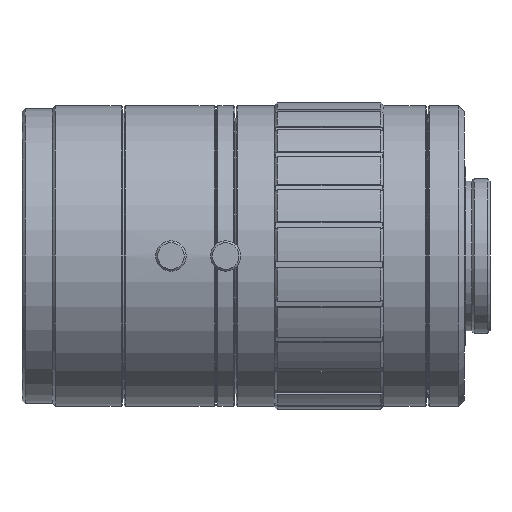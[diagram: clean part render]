
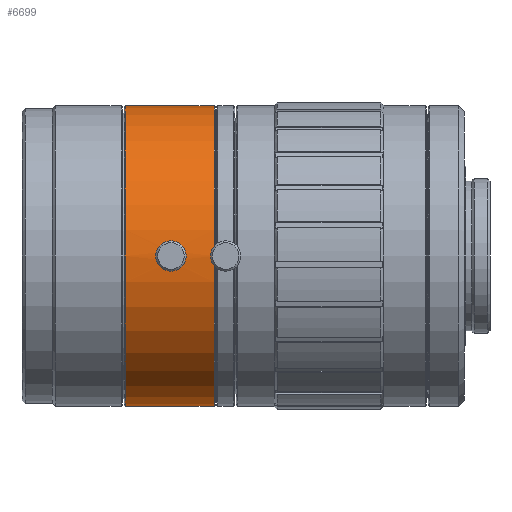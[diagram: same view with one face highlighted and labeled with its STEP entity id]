
A CAD part, front view. The second image highlights one B-rep face of the part: STEP entity #6699.
In plain terms, the highlighted cylindrical face has radius 24.75 mm (diameter 49.5 mm), a partial arc.
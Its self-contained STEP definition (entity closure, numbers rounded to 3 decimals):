
#210 = CARTESIAN_POINT ( 'NONE',  ( 0., 0., 24.75 ) ) ;
#555 = B_SPLINE_CURVE_WITH_KNOTS ( 'NONE', 3,
 ( #652, #5380, #2682, #1353, #6079, #2031, #6744, #2722, #7409, #3396, #8089, #4083, #8755, #4757, #686, #5436, #1380, #6110 ),
 .UNSPECIFIED., .F., .F.,
 ( 4, 2, 2, 2, 2, 2, 2, 2, 4 ),
 ( 0., 0., 0.001, 0.001, 0.002, 0.002, 0.002, 0.003, 0.003 ),
 .UNSPECIFIED. ) ;
#565 = CARTESIAN_POINT ( 'NONE',  ( 25.402, -24.737, 0.8 ) ) ;
#577 = EDGE_CURVE ( 'NONE', #1533, #4848, #7026, .T. ) ;
#615 = AXIS2_PLACEMENT_3D ( 'NONE', #3871, #8546, #4551 ) ;
#652 = CARTESIAN_POINT ( 'NONE',  ( 24.788, -24.73, -1. ) ) ;
#686 = CARTESIAN_POINT ( 'NONE',  ( 24.284, -24.735, 0.874 ) ) ;
#822 = CARTESIAN_POINT ( 'NONE',  ( 17.288, 0., 24.75 ) ) ;
#1096 = EDGE_LOOP ( 'NONE', ( #5153, #1815, #5229, #7605 ) ) ;
#1189 = LINE ( 'NONE', #6762, #1425 ) ;
#1258 = CARTESIAN_POINT ( 'NONE',  ( 25.661, -24.745, 0.504 ) ) ;
#1353 = CARTESIAN_POINT ( 'NONE',  ( 24.283, -24.735, -0.874 ) ) ;
#1380 = CARTESIAN_POINT ( 'NONE',  ( 24.657, -24.73, 1. ) ) ;
#1425 = VECTOR ( 'NONE', #2641, 1000. ) ;
#1487 = FACE_BOUND ( 'NONE', #8000, .T. ) ;
#1533 = VERTEX_POINT ( 'NONE', #4412 ) ;
#1668 = DIRECTION ( 'NONE',  ( -1., 0., 0. ) ) ;
#1704 = DIRECTION ( 'NONE',  ( -1., 0., 0. ) ) ;
#1718 = EDGE_CURVE ( 'NONE', #5575, #1905, #1189, .T. ) ;
#1806 = AXIS2_PLACEMENT_3D ( 'NONE', #3054, #1668, #7747 ) ;
#1815 = ORIENTED_EDGE ( 'NONE', *, *, #5131, .T. ) ;
#1905 = VERTEX_POINT ( 'NONE', #2796 ) ;
#1960 = CARTESIAN_POINT ( 'NONE',  ( 25.787, -24.75, 0.133 ) ) ;
#2031 = CARTESIAN_POINT ( 'NONE',  ( 23.988, -24.743, -0.615 ) ) ;
#2635 = CARTESIAN_POINT ( 'NONE',  ( 25.762, -24.749, -0.261 ) ) ;
#2641 = DIRECTION ( 'NONE',  ( -1., 0., 0. ) ) ;
#2682 = CARTESIAN_POINT ( 'NONE',  ( 24.526, -24.731, -0.974 ) ) ;
#2722 = CARTESIAN_POINT ( 'NONE',  ( 23.814, -24.749, -0.262 ) ) ;
#2796 = CARTESIAN_POINT ( 'NONE',  ( 17.288, 0., -24.75 ) ) ;
#2836 = VECTOR ( 'NONE', #4308, 1000. ) ;
#3054 = CARTESIAN_POINT ( 'NONE',  ( 0., 0., 0. ) ) ;
#3152 = CARTESIAN_POINT ( 'NONE',  ( 24.788, -24.73, 1. ) ) ;
#3279 = CARTESIAN_POINT ( 'NONE',  ( 24.918, -24.73, 1. ) ) ;
#3305 = CARTESIAN_POINT ( 'NONE',  ( 25.587, -24.743, -0.614 ) ) ;
#3367 = EDGE_CURVE ( 'NONE', #4513, #3687, #555, .T. ) ;
#3396 = CARTESIAN_POINT ( 'NONE',  ( 23.787, -24.75, 0.13 ) ) ;
#3687 = VERTEX_POINT ( 'NONE', #3152 ) ;
#3871 = CARTESIAN_POINT ( 'NONE',  ( 31.888, 0., 0. ) ) ;
#3996 = CARTESIAN_POINT ( 'NONE',  ( 25.052, -24.73, -1. ) ) ;
#4083 = CARTESIAN_POINT ( 'NONE',  ( 23.914, -24.745, 0.503 ) ) ;
#4308 = DIRECTION ( 'NONE',  ( -1., 0., 0. ) ) ;
#4392 = EDGE_CURVE ( 'NONE', #3687, #4513, #7915, .T. ) ;
#4412 = CARTESIAN_POINT ( 'NONE',  ( 31.888, 0., 24.75 ) ) ;
#4513 = VERTEX_POINT ( 'NONE', #5055 ) ;
#4551 = DIRECTION ( 'NONE',  ( 0., 0., 1. ) ) ;
#4645 = CARTESIAN_POINT ( 'NONE',  ( 25.29, -24.735, 0.874 ) ) ;
#4660 = CYLINDRICAL_SURFACE ( 'NONE', #1806, 24.75 ) ;
#4757 = CARTESIAN_POINT ( 'NONE',  ( 24.174, -24.737, 0.8 ) ) ;
#4848 = VERTEX_POINT ( 'NONE', #822 ) ;
#4888 = AXIS2_PLACEMENT_3D ( 'NONE', #5758, #1704, #6429 ) ;
#5051 = EDGE_CURVE ( 'NONE', #1905, #4848, #5312, .T. ) ;
#5055 = CARTESIAN_POINT ( 'NONE',  ( 24.788, -24.73, -1. ) ) ;
#5065 = CARTESIAN_POINT ( 'NONE',  ( 31.888, 0., -24.75 ) ) ;
#5076 = FACE_OUTER_BOUND ( 'NONE', #1096, .T. ) ;
#5131 = EDGE_CURVE ( 'NONE', #5575, #1533, #6466, .T. ) ;
#5153 = ORIENTED_EDGE ( 'NONE', *, *, #1718, .F. ) ;
#5229 = ORIENTED_EDGE ( 'NONE', *, *, #577, .T. ) ;
#5312 = CIRCLE ( 'NONE', #4888, 24.75 ) ;
#5318 = CARTESIAN_POINT ( 'NONE',  ( 25.586, -24.743, 0.615 ) ) ;
#5380 = CARTESIAN_POINT ( 'NONE',  ( 24.655, -24.73, -1. ) ) ;
#5384 = ORIENTED_EDGE ( 'NONE', *, *, #4392, .T. ) ;
#5436 = CARTESIAN_POINT ( 'NONE',  ( 24.526, -24.731, 0.974 ) ) ;
#5575 = VERTEX_POINT ( 'NONE', #5065 ) ;
#5758 = CARTESIAN_POINT ( 'NONE',  ( 17.288, 0., 0. ) ) ;
#6001 = CARTESIAN_POINT ( 'NONE',  ( 25.761, -24.749, 0.263 ) ) ;
#6079 = CARTESIAN_POINT ( 'NONE',  ( 24.173, -24.737, -0.799 ) ) ;
#6110 = CARTESIAN_POINT ( 'NONE',  ( 24.788, -24.73, 1. ) ) ;
#6429 = DIRECTION ( 'NONE',  ( 0., 0., 1. ) ) ;
#6466 = CIRCLE ( 'NONE', #615, 24.75 ) ;
#6661 = CARTESIAN_POINT ( 'NONE',  ( 25.788, -24.75, -0.131 ) ) ;
#6699 = ADVANCED_FACE ( 'NONE', ( #5076, #1487 ), #4660, .T. ) ;
#6744 = CARTESIAN_POINT ( 'NONE',  ( 23.914, -24.745, -0.503 ) ) ;
#6762 = CARTESIAN_POINT ( 'NONE',  ( 0., 0., -24.75 ) ) ;
#7026 = LINE ( 'NONE', #210, #2836 ) ;
#7334 = CARTESIAN_POINT ( 'NONE',  ( 25.661, -24.745, -0.503 ) ) ;
#7409 = CARTESIAN_POINT ( 'NONE',  ( 23.788, -24.75, -0.131 ) ) ;
#7605 = ORIENTED_EDGE ( 'NONE', *, *, #5051, .F. ) ;
#7747 = DIRECTION ( 'NONE',  ( 0., 0., 1. ) ) ;
#7915 = B_SPLINE_CURVE_WITH_KNOTS ( 'NONE', 3,
 ( #7979, #3279, #8632, #4645, #565, #5318, #1258, #6001, #1960, #6661, #2635, #7334, #3305, #8002, #3996, #8673 ),
 .UNSPECIFIED., .F., .F.,
 ( 4, 2, 2, 2, 2, 2, 2, 4 ),
 ( 0.003, 0.004, 0.004, 0.004, 0.005, 0.005, 0.005, 0.006 ),
 .UNSPECIFIED. ) ;
#7979 = CARTESIAN_POINT ( 'NONE',  ( 24.788, -24.73, 1. ) ) ;
#8000 = EDGE_LOOP ( 'NONE', ( #8196, #5384 ) ) ;
#8002 = CARTESIAN_POINT ( 'NONE',  ( 25.311, -24.735, -0.891 ) ) ;
#8089 = CARTESIAN_POINT ( 'NONE',  ( 23.813, -24.749, 0.261 ) ) ;
#8196 = ORIENTED_EDGE ( 'NONE', *, *, #3367, .T. ) ;
#8546 = DIRECTION ( 'NONE',  ( -1., 0., 0. ) ) ;
#8632 = CARTESIAN_POINT ( 'NONE',  ( 25.05, -24.731, 0.974 ) ) ;
#8673 = CARTESIAN_POINT ( 'NONE',  ( 24.788, -24.73, -1. ) ) ;
#8755 = CARTESIAN_POINT ( 'NONE',  ( 23.987, -24.743, 0.614 ) ) ;
